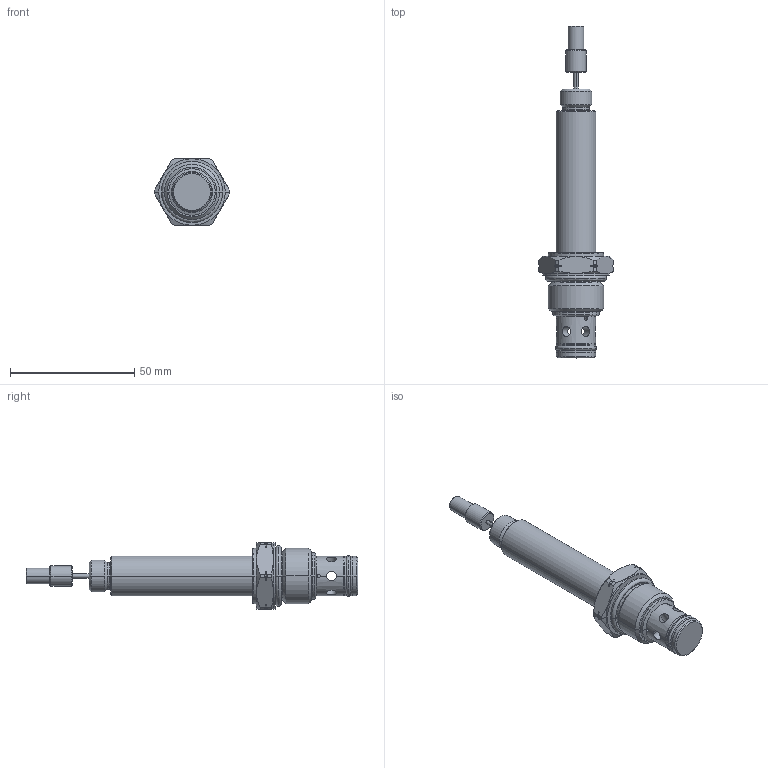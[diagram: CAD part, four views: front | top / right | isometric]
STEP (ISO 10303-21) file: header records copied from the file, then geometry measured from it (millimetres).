
FILE_DESCRIPTION((''),'2;1');
FILE_NAME('HSV10-23P','2019-04-01T11:25:41',('MG1'),(''),'CREO PARAMETRIC BY PTC INC, 2018020','CREO PARAMETRIC BY PTC INC, 2018020','');
FILE_SCHEMA(('CONFIG_CONTROL_DESIGN'));
Length unit declared in the file: inch
Products named in the file (1): HSV10-23P
Bounding box: 30.23 x 133.71 x 26.92 mm (x, y, z)
Volume: 27325.3 mm3; surface area: 9414.5 mm2
Topology: 3 solids, 3 shells, 174 faces, 391 edges, 224 vertices
Faces by surface type: cylinder 74, cone 48, plane 24, revolution 16, torus 12
Entity records: 6433 total; most frequent: CARTESIAN_POINT 2580, DIRECTION 797, ORIENTED_EDGE 782, EDGE_CURVE 391, AXIS2_PLACEMENT_3D 331, VERTEX_POINT 224, EDGE_LOOP 193, FACE_OUTER_BOUND 174
